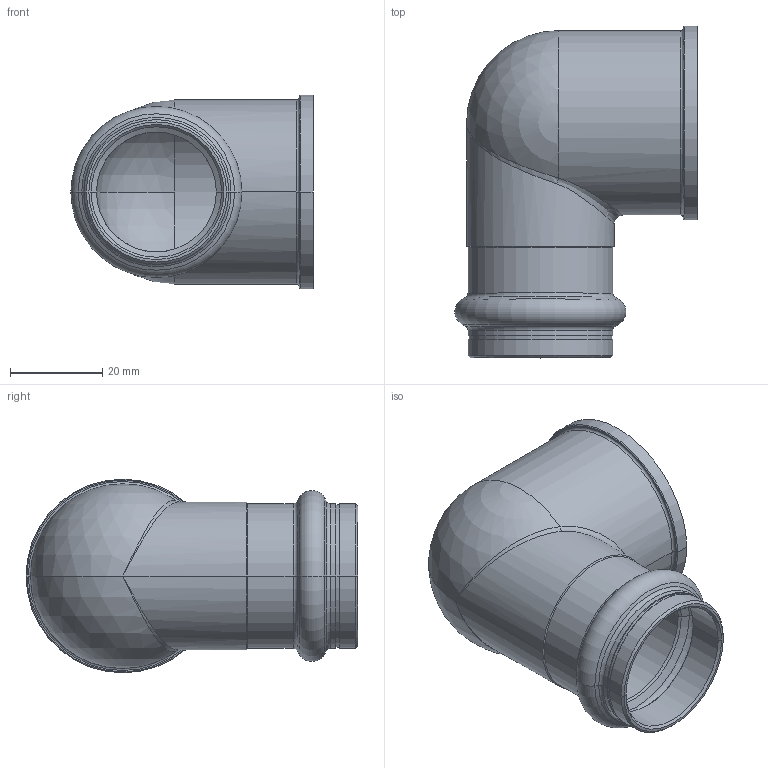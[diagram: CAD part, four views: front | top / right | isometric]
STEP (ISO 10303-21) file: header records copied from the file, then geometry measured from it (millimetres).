
FILE_DESCRIPTION (( 'STEP AP203' ), '1' );
FILE_NAME ('SP4090G Ø28 1.STEP', '2017-04-28T08:57:22', ( '' ), ( '' ), 'SwSTEP 2.0', 'SolidWorks 2016', '' );
FILE_SCHEMA (( 'CONFIG_CONTROL_DESIGN' ));
Length unit declared in the file: millimetre
Products named in the file (1): SP4090G ﾘ28 1
Bounding box: 52.55 x 72 x 42 mm (x, y, z)
Volume: 26094.6 mm3; surface area: 18456.9 mm2
Topology: 1 solids, 1 shells, 76 faces, 165 edges, 87 vertices
Faces by surface type: cylinder 24, cone 22, torus 14, plane 6, bspline 6, sphere 4
Entity records: 3037 total; most frequent: CARTESIAN_POINT 1354, DIRECTION 376, ORIENTED_EDGE 310, AXIS2_PLACEMENT_3D 165, EDGE_CURVE 155, CIRCLE 94, VERTEX_POINT 85, EDGE_LOOP 82
